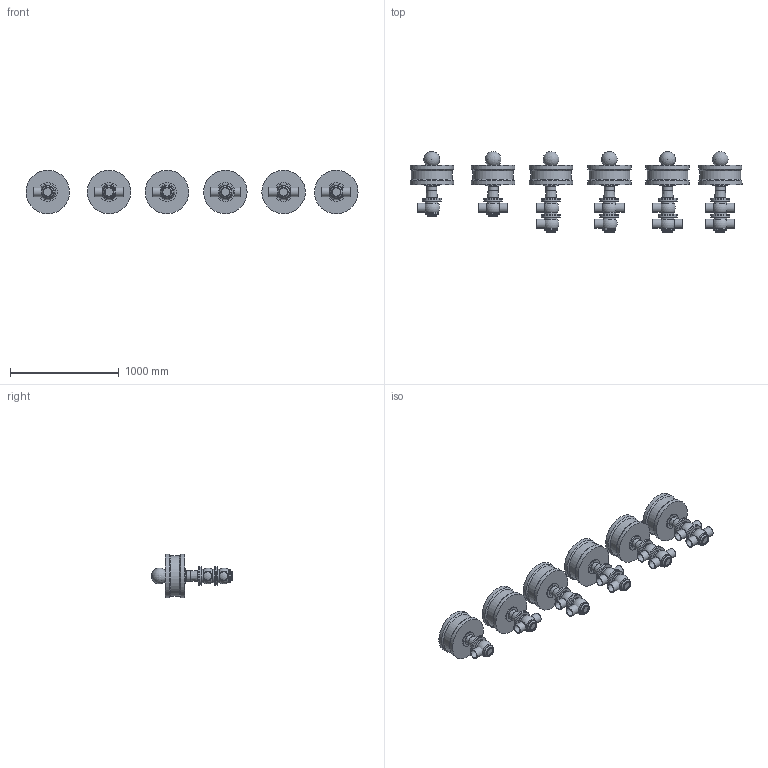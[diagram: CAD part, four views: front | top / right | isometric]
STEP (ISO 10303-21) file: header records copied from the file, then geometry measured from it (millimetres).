
FILE_DESCRIPTION(/* description */ (''),/* implementation_level */ '2;1');
FILE_NAME(/* name */ 'C:\Users\marz-m\Desktop\PDF\BBZQ 3D STEP\BBZQ-DN80-CIL.360.stp',/* time_stamp */ '2018-04-13T15:24:37+02:00',/* author */ ('marz-m'),/* organization */ (''),/* preprocessor_version */ 'ST-DEVELOPER v17',/* originating_system */ 'Autodesk Inventor 2018',/* authorisation */ '');
FILE_SCHEMA (('AUTOMOTIVE_DESIGN { 1 0 10303 214 3 1 1 }'));
Length unit declared in the file: millimetre
Products named in the file (8): BBZQ-DN80-CIL.360; assemblaggio dn80 per cil 207-360; CILINDRO 360; SAGOMA-GIOTTO-; COR-INF-L-BBZQ-DN080-SALD; COR-SUP-L-BBZQ-DN80; COR-SUP-T-BBZQ-DN80; COR-INF-T-BBZQ-DN080X3-SALD
Assembly tree (28 placements, depth 2):
  BBZQ-DN80-CIL.360
    assemblaggio dn80 per cil 207-360  x6
    COR-INF-L-BBZQ-DN080-SALD  x3
    COR-INF-T-BBZQ-DN080X3-SALD  x3
    COR-SUP-L-BBZQ-DN80  x2
    COR-SUP-T-BBZQ-DN80  x2
    CILINDRO 360  x6
    SAGOMA-GIOTTO-  x6
Bounding box: 3051.3 x 744.47 x 400 mm (x, y, z)
Volume: 165855044.4 mm3; surface area: 5760781.6 mm2
Topology: 31 solids, 31 shells, 331 faces, 839 edges, 626 vertices
Faces by surface type: cylinder 124, plane 118, sphere 33, torus 32, cone 24
Full cylindrical faces by diameter (mm): 25.4 x6, 69.8 x6, 75 x21, 85 x21, 92 x6, 120 x20, 141 x6, 174 x20, 374 x6, 400 x12
Entity records: 3737 total; most frequent: DIRECTION 707, CARTESIAN_POINT 662, ORIENTED_EDGE 500, AXIS2_PLACEMENT_3D 332, EDGE_CURVE 250, CIRCLE 197, VERTEX_POINT 187, EDGE_LOOP 121
